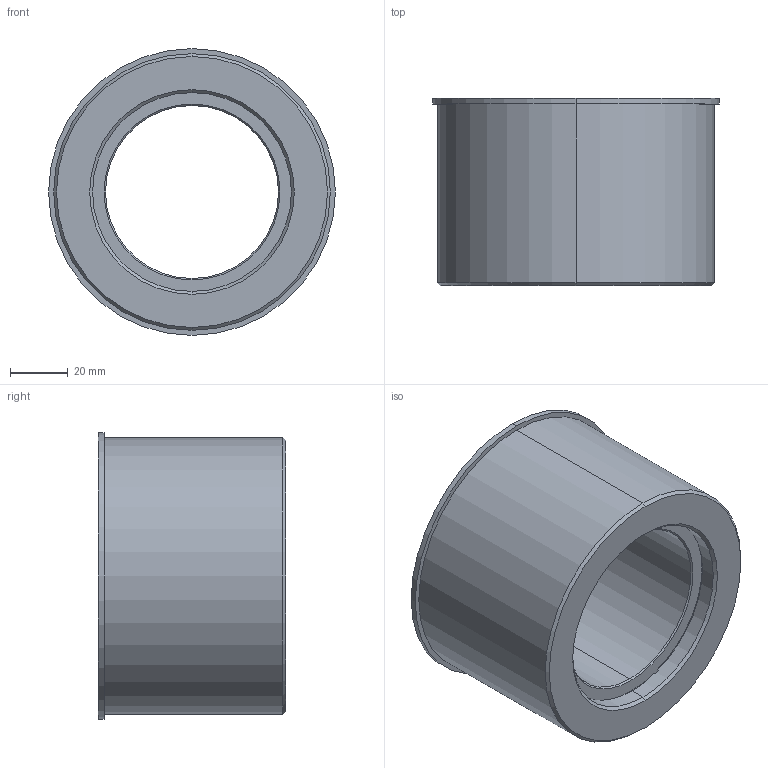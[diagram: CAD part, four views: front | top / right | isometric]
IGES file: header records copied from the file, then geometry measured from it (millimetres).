
Start section: 3D InterOp IGES (Version 20 0 1), Spatial Corp. Copyright (c) 1999-2007.
Global section: file name: 10.10.06.igs; native system: Spatial Corp.; preprocessor: 3D InterOp GENERIC/IGES 3.0; author: Noname; organization: Noname; date: 20111110.163831; units: metre
Bounding box: 99.5 x 65 x 99.5 mm (x, y, z)
Surface area: 68284.7 mm2 (no closed solid volume)
Topology: 0 solids, 0 shells, 57 faces, 814 edges, 1362 vertices
Faces by surface type: revolution 42, extrusion 15
